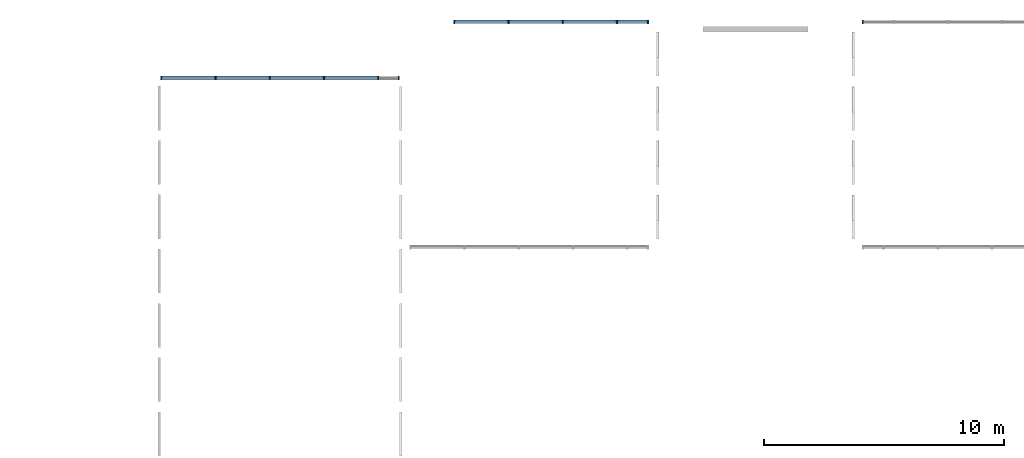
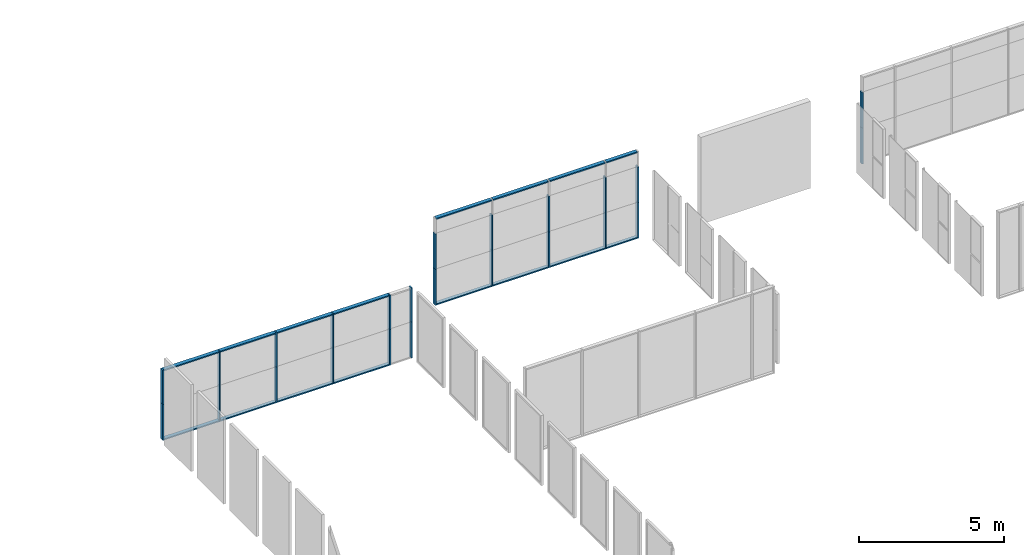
# One storey, part 3 of 15: 40 members, 3 elements without a shape of their own.
"""IFC2X3 building model written with IfcOpenShell, lengths in millimetres."""

from ifc_helpers import new_model, entity, si_unit, converted_unit, derived_unit, direction, frame, origin, origin_2d_with_axis, place, context, subcontext, project, spatial, rectangle, extrude, source, transform, mapped, material, type_object, type_shapes, element, aggregate, save


model = new_model("IFC2X3")

# Units and contexts
model_context = context("Model", 3, precision=0.01, world=origin(), true_north=direction((6.12303176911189e-17, 1.0)))
body_context = subcontext(model_context, "Body", "Model", "MODEL_VIEW")
ifc_project = project(units=[si_unit("LENGTHUNIT", "METRE", prefix="MILLI"), si_unit("AREAUNIT", "SQUARE_METRE"), si_unit("VOLUMEUNIT", "CUBIC_METRE"), converted_unit("PLANEANGLEUNIT", "DEGREE", entity("IfcRatioMeasure", 0.0174532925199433), si_unit("PLANEANGLEUNIT", "RADIAN"), dimensions=[0, 0, 0, 0, 0, 0, 0]), si_unit("MASSUNIT", "GRAM", prefix="KILO"), derived_unit("MASSDENSITYUNIT", [(si_unit("MASSUNIT", "GRAM", prefix="KILO"), 1), (si_unit("LENGTHUNIT", "METRE"), -3)]), derived_unit("MOMENTOFINERTIAUNIT", [(si_unit("LENGTHUNIT", "METRE"), 4)]), si_unit("TIMEUNIT", "SECOND"), si_unit("FREQUENCYUNIT", "HERTZ"), si_unit("THERMODYNAMICTEMPERATUREUNIT", "DEGREE_CELSIUS"), derived_unit("THERMALTRANSMITTANCEUNIT", [(si_unit("MASSUNIT", "GRAM", prefix="KILO"), 1), (si_unit("THERMODYNAMICTEMPERATUREUNIT", "KELVIN"), -1), (si_unit("TIMEUNIT", "SECOND"), -3)]), derived_unit("VOLUMETRICFLOWRATEUNIT", [(si_unit("LENGTHUNIT", "METRE"), 3), (si_unit("TIMEUNIT", "SECOND"), -1)]), si_unit("ELECTRICCURRENTUNIT", "AMPERE"), si_unit("ELECTRICVOLTAGEUNIT", "VOLT"), si_unit("POWERUNIT", "WATT"), si_unit("FORCEUNIT", "NEWTON", prefix="KILO"), si_unit("ILLUMINANCEUNIT", "LUX"), si_unit("LUMINOUSFLUXUNIT", "LUMEN"), si_unit("LUMINOUSINTENSITYUNIT", "CANDELA"), derived_unit("USERDEFINED", [(si_unit("MASSUNIT", "GRAM", prefix="KILO"), -1), (si_unit("LENGTHUNIT", "METRE"), -2), (si_unit("TIMEUNIT", "SECOND"), 3), (si_unit("LUMINOUSFLUXUNIT", "LUMEN"), 1)]), derived_unit("LINEARVELOCITYUNIT", [(si_unit("LENGTHUNIT", "METRE"), 1), (si_unit("TIMEUNIT", "SECOND"), -1)]), si_unit("PRESSUREUNIT", "PASCAL"), derived_unit("USERDEFINED", [(si_unit("LENGTHUNIT", "METRE"), -2), (si_unit("MASSUNIT", "GRAM", prefix="KILO"), 1), (si_unit("TIMEUNIT", "SECOND"), -2)]), derived_unit("LINEARFORCEUNIT", [(si_unit("MASSUNIT", "GRAM", prefix="KILO"), 1), (si_unit("LENGTHUNIT", "METRE"), 1), (si_unit("TIMEUNIT", "SECOND"), -2), (si_unit("LENGTHUNIT", "METRE"), -1)]), derived_unit("PLANARFORCEUNIT", [(si_unit("MASSUNIT", "GRAM", prefix="KILO"), 1), (si_unit("LENGTHUNIT", "METRE"), 1), (si_unit("TIMEUNIT", "SECOND"), -2), (si_unit("LENGTHUNIT", "METRE"), -2)])], contexts=[model_context])

# Site, building, storey
site_placement = place(None, frame((10627.5135316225, 21939.0796949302, 0.0)))
site = spatial("IfcSite", under=ifc_project, at=site_placement, Name="Default", CompositionType="ELEMENT")
building_placement = place(site_placement, origin())
building = spatial("IfcBuilding", under=site, at=building_placement, CompositionType="ELEMENT")
storey_placement = place(building_placement, origin())
storey = spatial("IfcBuildingStorey", under=building, at=storey_placement, Name="RDC", CompositionType="ELEMENT", Elevation=0.0)

# Curtain wall, member
curtain_wall_type = type_object("IfcCurtainWallType", Name="Curtain Wall:Curtain_Wall-Empty", PredefinedType="NOTDEFINED")
curtain_wall_1_placement = place(storey_placement, origin())
curtain_wall_1 = element("IfcCurtainWall", 1, at=curtain_wall_1_placement, inside=storey, type_object=curtain_wall_type, Name="Curtain Wall:Curtain_Wall-Empty", ObjectType="Curtain Wall:Curtain_Wall-Empty")
ifc_material = material(Name="Aluminium")
member_type_1 = type_object("IfcMemberType", Name="Rectangular Mullion:50x150mm", PredefinedType="MULLION", material=ifc_material)
shared_shape_1 = source(origin(), body_context, "Body", "SweptSolid", [
    extrude(rectangle(XDim=150.0, YDim=50.0, at=origin_2d_with_axis()), frame((-25.0, 0.0, -1515.0), z_axis=(0.0, 0.0, 1.0), x_axis=(0.0, -1.0, 0.0)), (0.0, 0.0, 1.0), 1515.0),
])
type_shapes(member_type_1, [shared_shape_1])
member_1_placement = place(storey_placement, frame((22127.4864683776, 16695.9203050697, 0.0), z_axis=(0.0, 0.0, -1.0), x_axis=(1.0, 0.0, 0.0)))
member_1 = element("IfcMember", 2, at=member_1_placement, type_object=member_type_1, material=ifc_material, Name="Rectangular Mullion:50x150mm", ObjectType="Rectangular Mullion:50x150mm", context=body_context, shape_type="MappedRepresentation", body=[
    mapped(shared_shape_1, transform((0.0, 0.0, 0.0), scale=1.0)),
])

curtain_wall_2_placement = place(storey_placement, origin())
curtain_wall_2 = element("IfcCurtainWall", 3, at=curtain_wall_2_placement, inside=storey, type_object=curtain_wall_type, Name="Curtain Wall:Curtain_Wall-Empty", ObjectType="Curtain Wall:Curtain_Wall-Empty")
member_2_placement = place(storey_placement, frame((11747.4864683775, 14360.9203050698, 0.0), z_axis=(0.0, 0.0, -1.0), x_axis=(1.0, 0.0, 0.0)))
member_2 = element("IfcMember", 4, at=member_2_placement, type_object=member_type_1, material=ifc_material, Name="Rectangular Mullion:50x150mm", ObjectType="Rectangular Mullion:50x150mm", context=body_context, shape_type="MappedRepresentation", body=[
    mapped(shared_shape_1, transform((0.0, 0.0, 0.0), scale=1.0)),
])

# Member
member_type_2 = type_object("IfcMemberType", Name="Rectangular Mullion:50x150mm", PredefinedType="MULLION", material=ifc_material)
shared_shape_2 = source(origin(), body_context, "Body", "SweptSolid", [
    extrude(rectangle(XDim=150.0, YDim=50.0, at=origin_2d_with_axis()), frame((-25.0, 0.0, -1500.0), z_axis=(0.0, 0.0, 1.0), x_axis=(0.0, -1.0, 0.0)), (0.0, 0.0, 1.0), 1500.0),
])
type_shapes(member_type_2, [shared_shape_2])
member_3_placement = place(storey_placement, frame((22127.4864683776, 16695.9203050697, 1515.0), z_axis=(0.0, 0.0, -1.0), x_axis=(1.0, 0.0, 0.0)))
member_3 = element("IfcMember", 5, at=member_3_placement, type_object=member_type_2, material=ifc_material, Name="Rectangular Mullion:50x150mm", ObjectType="Rectangular Mullion:50x150mm", context=body_context, shape_type="MappedRepresentation", body=[
    mapped(shared_shape_2, transform((0.0, 0.0, 0.0), scale=1.0)),
])

member_type_3 = type_object("IfcMemberType", Name="Rectangular Mullion:50x150mm", PredefinedType="MULLION", material=ifc_material)
shared_shape_3 = source(origin(), body_context, "Body", "SweptSolid", [
    extrude(rectangle(XDim=150.0, YDim=50.0, at=origin_2d_with_axis()), frame((-25.0, 0.0, -1515.0), z_axis=(0.0, 0.0, 1.0), x_axis=(0.0, -1.0, 0.0)), (0.0, 0.0, 1.0), 1515.0),
])
type_shapes(member_type_3, [shared_shape_3])
member_4_placement = place(storey_placement, frame((14007.4864683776, 16695.9203050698, 1515.0), z_axis=(0.0, 0.0, 1.0), x_axis=(-1.0, 0.0, 0.0)))
member_4 = element("IfcMember", 6, at=member_4_placement, type_object=member_type_3, material=ifc_material, Name="Rectangular Mullion:50x150mm", ObjectType="Rectangular Mullion:50x150mm", context=body_context, shape_type="MappedRepresentation", body=[
    mapped(shared_shape_3, transform((0.0, 0.0, 0.0), scale=1.0)),
])

member_5_placement = place(storey_placement, frame((1797.48646837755, 14360.9203050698, 1515.0), z_axis=(0.0, 0.0, 1.0), x_axis=(-1.0, 0.0, 0.0)))
member_5 = element("IfcMember", 7, at=member_5_placement, type_object=member_type_3, material=ifc_material, Name="Rectangular Mullion:50x150mm", ObjectType="Rectangular Mullion:50x150mm", context=body_context, shape_type="MappedRepresentation", body=[
    mapped(shared_shape_3, transform((0.0, 0.0, 0.0), scale=1.0)),
])

member_type_4 = type_object("IfcMemberType", Name="Rectangular Mullion:50x150mm", PredefinedType="MULLION", material=ifc_material)
shared_shape_4 = source(origin(), body_context, "Body", "SweptSolid", [
    extrude(rectangle(XDim=150.0, YDim=50.0, at=origin_2d_with_axis()), frame((-25.0, 0.0, -1500.0), z_axis=(0.0, 0.0, 1.0), x_axis=(0.0, -1.0, 0.0)), (0.0, 0.0, 1.0), 1500.0),
])
type_shapes(member_type_4, [shared_shape_4])
member_6_placement = place(storey_placement, frame((14007.4864683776, 16695.9203050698, 3015.0), z_axis=(0.0, 0.0, 1.0), x_axis=(-1.0, 0.0, 0.0)))
member_6 = element("IfcMember", 8, at=member_6_placement, type_object=member_type_4, material=ifc_material, Name="Rectangular Mullion:50x150mm", ObjectType="Rectangular Mullion:50x150mm", context=body_context, shape_type="MappedRepresentation", body=[
    mapped(shared_shape_4, transform((0.0, 0.0, 0.0), scale=1.0)),
])

member_type_5 = type_object("IfcMemberType", Name="Rectangular Mullion:50x150mm", PredefinedType="MULLION", material=ifc_material)
shared_shape_5 = source(origin(), body_context, "Body", "SweptSolid", [
    extrude(rectangle(XDim=150.0, YDim=50.0, at=origin_2d_with_axis()), frame((0.0, 0.0, -1515.0), z_axis=(0.0, 0.0, 1.0), x_axis=(0.0, -1.0, 0.0)), (0.0, 0.0, 1.0), 1515.0),
])
type_shapes(member_type_5, [shared_shape_5])
member_7_placement = place(storey_placement, frame((16292.4864686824, 16695.9203050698, 0.0), z_axis=(0.0, 0.0, -1.0), x_axis=(1.0, 0.0, 0.0)))
member_7 = element("IfcMember", 9, at=member_7_placement, type_object=member_type_5, material=ifc_material, Name="Rectangular Mullion:50x150mm", ObjectType="Rectangular Mullion:50x150mm", context=body_context, shape_type="MappedRepresentation", body=[
    mapped(shared_shape_5, transform((0.0, 0.0, 0.0), scale=1.0)),
])

member_8_placement = place(storey_placement, frame((18552.4864686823, 16695.9203050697, 0.0), z_axis=(0.0, 0.0, -1.0), x_axis=(1.0, 0.0, 0.0)))
member_8 = element("IfcMember", 10, at=member_8_placement, type_object=member_type_5, material=ifc_material, Name="Rectangular Mullion:50x150mm", ObjectType="Rectangular Mullion:50x150mm", context=body_context, shape_type="MappedRepresentation", body=[
    mapped(shared_shape_5, transform((0.0, 0.0, 0.0), scale=1.0)),
])

member_9_placement = place(storey_placement, frame((20812.4864686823, 16695.9203050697, 0.0), z_axis=(0.0, 0.0, -1.0), x_axis=(1.0, 0.0, 0.0)))
member_9 = element("IfcMember", 11, at=member_9_placement, type_object=member_type_5, material=ifc_material, Name="Rectangular Mullion:50x150mm", ObjectType="Rectangular Mullion:50x150mm", context=body_context, shape_type="MappedRepresentation", body=[
    mapped(shared_shape_5, transform((0.0, 0.0, 0.0), scale=1.0)),
])

member_10_placement = place(storey_placement, frame((4082.48646868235, 14360.9203050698, 0.0), z_axis=(0.0, 0.0, -1.0), x_axis=(1.0, 0.0, 0.0)))
member_10 = element("IfcMember", 12, at=member_10_placement, type_object=member_type_5, material=ifc_material, Name="Rectangular Mullion:50x150mm", ObjectType="Rectangular Mullion:50x150mm", context=body_context, shape_type="MappedRepresentation", body=[
    mapped(shared_shape_5, transform((0.0, 0.0, 0.0), scale=1.0)),
])

member_11_placement = place(storey_placement, frame((6342.48646868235, 14360.9203050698, 0.0), z_axis=(0.0, 0.0, -1.0), x_axis=(1.0, 0.0, 0.0)))
member_11 = element("IfcMember", 13, at=member_11_placement, type_object=member_type_5, material=ifc_material, Name="Rectangular Mullion:50x150mm", ObjectType="Rectangular Mullion:50x150mm", context=body_context, shape_type="MappedRepresentation", body=[
    mapped(shared_shape_5, transform((0.0, 0.0, 0.0), scale=1.0)),
])

member_12_placement = place(storey_placement, frame((8602.48646868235, 14360.9203050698, 0.0), z_axis=(0.0, 0.0, -1.0), x_axis=(1.0, 0.0, 0.0)))
member_12 = element("IfcMember", 14, at=member_12_placement, type_object=member_type_5, material=ifc_material, Name="Rectangular Mullion:50x150mm", ObjectType="Rectangular Mullion:50x150mm", context=body_context, shape_type="MappedRepresentation", body=[
    mapped(shared_shape_5, transform((0.0, 0.0, 0.0), scale=1.0)),
])

member_type_6 = type_object("IfcMemberType", Name="Rectangular Mullion:50x150mm", PredefinedType="MULLION", material=ifc_material)
shared_shape_6 = source(origin(), body_context, "Body", "SweptSolid", [
    extrude(rectangle(XDim=150.0, YDim=50.0, at=origin_2d_with_axis()), frame((0.0, 0.0, -1500.0), z_axis=(0.0, 0.0, 1.0), x_axis=(0.0, -1.0, 0.0)), (0.0, 0.0, 1.0), 1500.0),
])
type_shapes(member_type_6, [shared_shape_6])
member_13_placement = place(storey_placement, frame((16292.4864686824, 16695.9203050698, 1515.0), z_axis=(0.0, 0.0, -1.0), x_axis=(1.0, 0.0, 0.0)))
member_13 = element("IfcMember", 15, at=member_13_placement, type_object=member_type_6, material=ifc_material, Name="Rectangular Mullion:50x150mm", ObjectType="Rectangular Mullion:50x150mm", context=body_context, shape_type="MappedRepresentation", body=[
    mapped(shared_shape_6, transform((0.0, 0.0, 0.0), scale=1.0)),
])

member_14_placement = place(storey_placement, frame((18552.4864686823, 16695.9203050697, 1515.0), z_axis=(0.0, 0.0, -1.0), x_axis=(1.0, 0.0, 0.0)))
member_14 = element("IfcMember", 16, at=member_14_placement, type_object=member_type_6, material=ifc_material, Name="Rectangular Mullion:50x150mm", ObjectType="Rectangular Mullion:50x150mm", context=body_context, shape_type="MappedRepresentation", body=[
    mapped(shared_shape_6, transform((0.0, 0.0, 0.0), scale=1.0)),
])

member_15_placement = place(storey_placement, frame((20812.4864686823, 16695.9203050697, 1515.0), z_axis=(0.0, 0.0, -1.0), x_axis=(1.0, 0.0, 0.0)))
member_15 = element("IfcMember", 17, at=member_15_placement, type_object=member_type_6, material=ifc_material, Name="Rectangular Mullion:50x150mm", ObjectType="Rectangular Mullion:50x150mm", context=body_context, shape_type="MappedRepresentation", body=[
    mapped(shared_shape_6, transform((0.0, 0.0, 0.0), scale=1.0)),
])

member_type_7 = type_object("IfcMemberType", Name="Rectangular Mullion:50x150mm", PredefinedType="MULLION", material=ifc_material)
shared_shape_7 = source(origin(), body_context, "Body", "SweptSolid", [
    extrude(rectangle(XDim=150.0, YDim=50.0, at=origin_2d_with_axis()), frame((-25.0, 0.0, -1240.0), z_axis=(0.0, 0.0, 1.0), x_axis=(0.0, -1.0, 0.0)), (0.0, 0.0, 1.0), 1239.99999969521),
])
type_shapes(member_type_7, [shared_shape_7])
member_16_placement = place(storey_placement, frame((22077.4864683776, 16695.9203050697, 3660.0), z_axis=(1.0, 0.0, 0.0), x_axis=(0.0, 0.0, 1.0)))
member_16 = element("IfcMember", 18, at=member_16_placement, type_object=member_type_7, material=ifc_material, Name="Rectangular Mullion:50x150mm", ObjectType="Rectangular Mullion:50x150mm", context=body_context, shape_type="MappedRepresentation", body=[
    mapped(shared_shape_7, transform((0.0, 0.0, 0.0), scale=1.0)),
])

member_type_8 = type_object("IfcMemberType", Name="Rectangular Mullion:50x150mm", PredefinedType="MULLION", material=ifc_material)
shared_shape_8 = source(origin(), body_context, "Body", "SweptSolid", [
    extrude(rectangle(XDim=150.0, YDim=50.0, at=origin_2d_with_axis()), frame((-25.0, 0.0, -2210.0), z_axis=(0.0, 0.0, 1.0), x_axis=(0.0, -1.0, 0.0)), (0.0, 0.0, 1.0), 2210.0000003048),
])
type_shapes(member_type_8, [shared_shape_8])
member_17_placement = place(storey_placement, frame((16267.4864686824, 16695.9203050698, 3660.0), z_axis=(1.0, 0.0, 0.0), x_axis=(0.0, 0.0, 1.0)))
member_17 = element("IfcMember", 19, at=member_17_placement, type_object=member_type_8, material=ifc_material, Name="Rectangular Mullion:50x150mm", ObjectType="Rectangular Mullion:50x150mm", context=body_context, shape_type="MappedRepresentation", body=[
    mapped(shared_shape_8, transform((0.0, 0.0, 0.0), scale=1.0)),
])

member_18_placement = place(storey_placement, frame((18527.4864686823, 16695.9203050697, 3660.0), z_axis=(1.0, 0.0, 0.0), x_axis=(0.0, 0.0, 1.0)))
member_18 = element("IfcMember", 20, at=member_18_placement, type_object=member_type_8, material=ifc_material, Name="Rectangular Mullion:50x150mm", ObjectType="Rectangular Mullion:50x150mm", context=body_context, shape_type="MappedRepresentation", body=[
    mapped(shared_shape_8, transform((0.0, 0.0, 0.0), scale=1.0)),
])

member_19_placement = place(storey_placement, frame((20787.4864686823, 16695.9203050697, 3660.0), z_axis=(1.0, 0.0, 0.0), x_axis=(0.0, 0.0, 1.0)))
member_19 = element("IfcMember", 21, at=member_19_placement, type_object=member_type_8, material=ifc_material, Name="Rectangular Mullion:50x150mm", ObjectType="Rectangular Mullion:50x150mm", context=body_context, shape_type="MappedRepresentation", body=[
    mapped(shared_shape_8, transform((0.0, 0.0, 0.0), scale=1.0)),
])

member_20_placement = place(storey_placement, frame((4057.48646868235, 14360.9203050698, 2960.0), z_axis=(1.0, 0.0, 0.0), x_axis=(0.0, 0.0, 1.0)))
member_20 = element("IfcMember", 22, at=member_20_placement, type_object=member_type_8, material=ifc_material, Name="Rectangular Mullion:50x150mm", ObjectType="Rectangular Mullion:50x150mm", context=body_context, shape_type="MappedRepresentation", body=[
    mapped(shared_shape_8, transform((0.0, 0.0, 0.0), scale=1.0)),
])

member_21_placement = place(storey_placement, frame((6317.48646868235, 14360.9203050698, 2960.0), z_axis=(1.0, 0.0, 0.0), x_axis=(0.0, 0.0, 1.0)))
member_21 = element("IfcMember", 23, at=member_21_placement, type_object=member_type_8, material=ifc_material, Name="Rectangular Mullion:50x150mm", ObjectType="Rectangular Mullion:50x150mm", context=body_context, shape_type="MappedRepresentation", body=[
    mapped(shared_shape_8, transform((0.0, 0.0, 0.0), scale=1.0)),
])

member_22_placement = place(storey_placement, frame((8577.48646868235, 14360.9203050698, 2960.0), z_axis=(1.0, 0.0, 0.0), x_axis=(0.0, 0.0, 1.0)))
member_22 = element("IfcMember", 24, at=member_22_placement, type_object=member_type_8, material=ifc_material, Name="Rectangular Mullion:50x150mm", ObjectType="Rectangular Mullion:50x150mm", context=body_context, shape_type="MappedRepresentation", body=[
    mapped(shared_shape_8, transform((0.0, 0.0, 0.0), scale=1.0)),
])

member_type_9 = type_object("IfcMemberType", Name="Rectangular Mullion:50x150mm", PredefinedType="MULLION", material=ifc_material)
shared_shape_9 = source(origin(), body_context, "Body", "SweptSolid", [
    extrude(rectangle(XDim=150.0, YDim=50.0, at=origin_2d_with_axis()), frame((-25.0, 0.0, -2210.0), z_axis=(0.0, 0.0, 1.0), x_axis=(0.0, -1.0, 0.0)), (0.0, 0.0, 1.0), 2210.0000003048),
])
type_shapes(member_type_9, [shared_shape_9])
member_23_placement = place(storey_placement, frame((14057.4864683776, 16695.9203050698, 0.0), z_axis=(-1.0, 0.0, 0.0), x_axis=(0.0, 0.0, -1.0)))
member_23 = element("IfcMember", 25, at=member_23_placement, type_object=member_type_9, material=ifc_material, Name="Rectangular Mullion:50x150mm", ObjectType="Rectangular Mullion:50x150mm", context=body_context, shape_type="MappedRepresentation", body=[
    mapped(shared_shape_9, transform((0.0, 0.0, 0.0), scale=1.0)),
])

member_24_placement = place(storey_placement, frame((16317.4864686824, 16695.9203050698, 0.0), z_axis=(-1.0, 0.0, 0.0), x_axis=(0.0, 0.0, -1.0)))
member_24 = element("IfcMember", 26, at=member_24_placement, type_object=member_type_9, material=ifc_material, Name="Rectangular Mullion:50x150mm", ObjectType="Rectangular Mullion:50x150mm", context=body_context, shape_type="MappedRepresentation", body=[
    mapped(shared_shape_9, transform((0.0, 0.0, 0.0), scale=1.0)),
])

member_25_placement = place(storey_placement, frame((18577.4864686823, 16695.9203050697, 0.0), z_axis=(-1.0, 0.0, 0.0), x_axis=(0.0, 0.0, -1.0)))
member_25 = element("IfcMember", 27, at=member_25_placement, type_object=member_type_9, material=ifc_material, Name="Rectangular Mullion:50x150mm", ObjectType="Rectangular Mullion:50x150mm", context=body_context, shape_type="MappedRepresentation", body=[
    mapped(shared_shape_9, transform((0.0, 0.0, 0.0), scale=1.0)),
])

member_26_placement = place(storey_placement, frame((1847.48646837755, 14360.9203050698, 0.0), z_axis=(-1.0, 0.0, 0.0), x_axis=(0.0, 0.0, -1.0)))
member_26 = element("IfcMember", 28, at=member_26_placement, type_object=member_type_9, material=ifc_material, Name="Rectangular Mullion:50x150mm", ObjectType="Rectangular Mullion:50x150mm", context=body_context, shape_type="MappedRepresentation", body=[
    mapped(shared_shape_9, transform((0.0, 0.0, 0.0), scale=1.0)),
])

member_27_placement = place(storey_placement, frame((4107.48646868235, 14360.9203050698, 0.0), z_axis=(-1.0, 0.0, 0.0), x_axis=(0.0, 0.0, -1.0)))
member_27 = element("IfcMember", 29, at=member_27_placement, type_object=member_type_9, material=ifc_material, Name="Rectangular Mullion:50x150mm", ObjectType="Rectangular Mullion:50x150mm", context=body_context, shape_type="MappedRepresentation", body=[
    mapped(shared_shape_9, transform((0.0, 0.0, 0.0), scale=1.0)),
])

member_28_placement = place(storey_placement, frame((6367.48646868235, 14360.9203050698, 0.0), z_axis=(-1.0, 0.0, 0.0), x_axis=(0.0, 0.0, -1.0)))
member_28 = element("IfcMember", 30, at=member_28_placement, type_object=member_type_9, material=ifc_material, Name="Rectangular Mullion:50x150mm", ObjectType="Rectangular Mullion:50x150mm", context=body_context, shape_type="MappedRepresentation", body=[
    mapped(shared_shape_9, transform((0.0, 0.0, 0.0), scale=1.0)),
])

member_29_placement = place(storey_placement, frame((8627.48646868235, 14360.9203050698, 0.0), z_axis=(-1.0, 0.0, 0.0), x_axis=(0.0, 0.0, -1.0)))
member_29 = element("IfcMember", 31, at=member_29_placement, type_object=member_type_9, material=ifc_material, Name="Rectangular Mullion:50x150mm", ObjectType="Rectangular Mullion:50x150mm", context=body_context, shape_type="MappedRepresentation", body=[
    mapped(shared_shape_9, transform((0.0, 0.0, 0.0), scale=1.0)),
])

member_type_10 = type_object("IfcMemberType", Name="Rectangular Mullion:50x150mm", PredefinedType="MULLION", material=ifc_material)
shared_shape_10 = source(origin(), body_context, "Body", "SweptSolid", [
    extrude(rectangle(XDim=150.0, YDim=50.0, at=origin_2d_with_axis()), frame((-25.0, 0.0, -1240.0), z_axis=(0.0, 0.0, 1.0), x_axis=(0.0, -1.0, 0.0)), (0.0, 0.0, 1.0), 1239.99999969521),
])
type_shapes(member_type_10, [shared_shape_10])
member_30_placement = place(storey_placement, frame((20837.4864686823, 16695.9203050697, 0.0), z_axis=(-1.0, 0.0, 0.0), x_axis=(0.0, 0.0, -1.0)))
member_30 = element("IfcMember", 32, at=member_30_placement, type_object=member_type_10, material=ifc_material, Name="Rectangular Mullion:50x150mm", ObjectType="Rectangular Mullion:50x150mm", context=body_context, shape_type="MappedRepresentation", body=[
    mapped(shared_shape_10, transform((0.0, 0.0, 0.0), scale=1.0)),
])

aggregate(curtain_wall_1, [member_1, member_3, member_4, member_6, member_7, member_8, member_9, member_13, member_14, member_15, member_16, member_17, member_18, member_19, member_23, member_24, member_25, member_30])

# Curtain wall, members
curtain_wall_3_placement = place(storey_placement, origin())
curtain_wall_3 = element("IfcCurtainWall", 33, at=curtain_wall_3_placement, inside=storey, type_object=curtain_wall_type, Name="Curtain Wall:Curtain_Wall-Empty", ObjectType="Curtain Wall:Curtain_Wall-Empty")
member_type_11 = type_object("IfcMemberType", Name="Rectangular Mullion:50x150mm", PredefinedType="MULLION", material=ifc_material)
shared_shape_11 = source(origin(), body_context, "Body", "SweptSolid", [
    extrude(rectangle(XDim=150.0, YDim=50.0, at=origin_2d_with_axis()), frame((-25.0, 0.0, -1515.0), z_axis=(0.0, 0.0, 1.0), x_axis=(0.0, -1.0, 0.0)), (0.0, 0.0, 1.0), 1515.0),
])
type_shapes(member_type_11, [shared_shape_11])
member_31_placement = place(storey_placement, frame((31027.4864683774, 16695.9203050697, 0.0), z_axis=(0.0, 0.0, -1.0), x_axis=(-1.0, 0.0, 0.0)))
member_31 = element("IfcMember", 34, at=member_31_placement, type_object=member_type_11, material=ifc_material, Name="Rectangular Mullion:50x150mm", ObjectType="Rectangular Mullion:50x150mm", context=body_context, shape_type="MappedRepresentation", body=[
    mapped(shared_shape_11, transform((0.0, 0.0, 0.0), scale=1.0)),
])
member_type_12 = type_object("IfcMemberType", Name="Rectangular Mullion:50x150mm", PredefinedType="MULLION", material=ifc_material)
shared_shape_12 = source(origin(), body_context, "Body", "SweptSolid", [
    extrude(rectangle(XDim=150.0, YDim=50.0, at=origin_2d_with_axis()), frame((-25.0, 0.0, -1500.0), z_axis=(0.0, 0.0, 1.0), x_axis=(0.0, -1.0, 0.0)), (0.0, 0.0, 1.0), 1500.0),
])
type_shapes(member_type_12, [shared_shape_12])
member_32_placement = place(storey_placement, frame((31027.4864683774, 16695.9203050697, 1515.0), z_axis=(0.0, 0.0, -1.0), x_axis=(-1.0, 0.0, 0.0)))
member_32 = element("IfcMember", 35, at=member_32_placement, type_object=member_type_12, material=ifc_material, Name="Rectangular Mullion:50x150mm", ObjectType="Rectangular Mullion:50x150mm", context=body_context, shape_type="MappedRepresentation", body=[
    mapped(shared_shape_12, transform((0.0, 0.0, 0.0), scale=1.0)),
])
aggregate(curtain_wall_3, [member_31, member_32])

# Member
member_type_13 = type_object("IfcMemberType", Name="Rectangular Mullion:50x150mm", PredefinedType="MULLION", material=ifc_material)
shared_shape_13 = source(origin(), body_context, "Body", "SweptSolid", [
    extrude(rectangle(XDim=150.0, YDim=50.0, at=origin_2d_with_axis()), frame((-25.0, 0.0, -1445.0), z_axis=(0.0, 0.0, 1.0), x_axis=(0.0, -1.0, 0.0)), (0.0, 0.0, 1.0), 1445.0),
])
type_shapes(member_type_13, [shared_shape_13])
member_33_placement = place(storey_placement, frame((1797.48646837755, 14360.9203050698, 2960.0), z_axis=(0.0, 0.0, 1.0), x_axis=(-1.0, 0.0, 0.0)))
member_33 = element("IfcMember", 36, at=member_33_placement, type_object=member_type_13, material=ifc_material, Name="Rectangular Mullion:50x150mm", ObjectType="Rectangular Mullion:50x150mm", context=body_context, shape_type="MappedRepresentation", body=[
    mapped(shared_shape_13, transform((0.0, 0.0, 0.0), scale=1.0)),
])

member_type_14 = type_object("IfcMemberType", Name="Rectangular Mullion:50x150mm", PredefinedType="MULLION", material=ifc_material)
shared_shape_14 = source(origin(), body_context, "Body", "SweptSolid", [
    extrude(rectangle(XDim=150.0, YDim=50.0, at=origin_2d_with_axis()), frame((-25.0, 0.0, -1445.0), z_axis=(0.0, 0.0, 1.0), x_axis=(0.0, -1.0, 0.0)), (0.0, 0.0, 1.0), 1445.0),
])
type_shapes(member_type_14, [shared_shape_14])
member_34_placement = place(storey_placement, frame((11747.4864683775, 14360.9203050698, 1515.0), z_axis=(0.0, 0.0, -1.0), x_axis=(1.0, 0.0, 0.0)))
member_34 = element("IfcMember", 37, at=member_34_placement, type_object=member_type_14, material=ifc_material, Name="Rectangular Mullion:50x150mm", ObjectType="Rectangular Mullion:50x150mm", context=body_context, shape_type="MappedRepresentation", body=[
    mapped(shared_shape_14, transform((0.0, 0.0, 0.0), scale=1.0)),
])

member_type_15 = type_object("IfcMemberType", Name="Rectangular Mullion:50x150mm", PredefinedType="MULLION", material=ifc_material)
shared_shape_15 = source(origin(), body_context, "Body", "SweptSolid", [
    extrude(rectangle(XDim=150.0, YDim=50.0, at=origin_2d_with_axis()), frame((0.0, 0.0, -1445.0), z_axis=(0.0, 0.0, 1.0), x_axis=(0.0, -1.0, 0.0)), (0.0, 0.0, 1.0), 1445.0),
])
type_shapes(member_type_15, [shared_shape_15])
member_35_placement = place(storey_placement, frame((4082.48646868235, 14360.9203050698, 1515.0), z_axis=(0.0, 0.0, -1.0), x_axis=(1.0, 0.0, 0.0)))
member_35 = element("IfcMember", 38, at=member_35_placement, type_object=member_type_15, material=ifc_material, Name="Rectangular Mullion:50x150mm", ObjectType="Rectangular Mullion:50x150mm", context=body_context, shape_type="MappedRepresentation", body=[
    mapped(shared_shape_15, transform((0.0, 0.0, 0.0), scale=1.0)),
])

member_36_placement = place(storey_placement, frame((6342.48646868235, 14360.9203050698, 1515.0), z_axis=(0.0, 0.0, -1.0), x_axis=(1.0, 0.0, 0.0)))
member_36 = element("IfcMember", 39, at=member_36_placement, type_object=member_type_15, material=ifc_material, Name="Rectangular Mullion:50x150mm", ObjectType="Rectangular Mullion:50x150mm", context=body_context, shape_type="MappedRepresentation", body=[
    mapped(shared_shape_15, transform((0.0, 0.0, 0.0), scale=1.0)),
])

member_37_placement = place(storey_placement, frame((8602.48646868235, 14360.9203050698, 1515.0), z_axis=(0.0, 0.0, -1.0), x_axis=(1.0, 0.0, 0.0)))
member_37 = element("IfcMember", 40, at=member_37_placement, type_object=member_type_15, material=ifc_material, Name="Rectangular Mullion:50x150mm", ObjectType="Rectangular Mullion:50x150mm", context=body_context, shape_type="MappedRepresentation", body=[
    mapped(shared_shape_15, transform((0.0, 0.0, 0.0), scale=1.0)),
])

member_type_16 = type_object("IfcMemberType", Name="Rectangular Mullion:50x150mm", PredefinedType="MULLION", material=ifc_material)
shared_shape_16 = source(origin(), body_context, "Body", "SweptSolid", [
    extrude(rectangle(XDim=150.0, YDim=50.0, at=origin_2d_with_axis()), frame((-25.0, 0.0, -2210.0), z_axis=(0.0, 0.0, 1.0), x_axis=(0.0, -1.0, 0.0)), (0.0, 0.0, 1.0), 2210.0),
])
type_shapes(member_type_16, [shared_shape_16])
member_38_placement = place(storey_placement, frame((10837.4864686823, 14360.9203050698, 2960.0), z_axis=(1.0, 0.0, 0.0), x_axis=(0.0, 0.0, 1.0)))
member_38 = element("IfcMember", 41, at=member_38_placement, type_object=member_type_16, material=ifc_material, Name="Rectangular Mullion:50x150mm", ObjectType="Rectangular Mullion:50x150mm", context=body_context, shape_type="MappedRepresentation", body=[
    mapped(shared_shape_16, transform((0.0, 0.0, 0.0), scale=1.0)),
])

member_type_17 = type_object("IfcMemberType", Name="Rectangular Mullion:50x150mm", PredefinedType="MULLION", material=ifc_material)
shared_shape_17 = source(origin(), body_context, "Body", "SweptSolid", [
    extrude(rectangle(XDim=150.0, YDim=50.0, at=origin_2d_with_axis()), frame((0.0, 0.0, -1515.0), z_axis=(0.0, 0.0, 1.0), x_axis=(0.0, -1.0, 0.0)), (0.0, 0.0, 1.0), 1515.0),
])
type_shapes(member_type_17, [shared_shape_17])
member_39_placement = place(storey_placement, frame((10862.4864686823, 14360.9203050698, 0.0), z_axis=(0.0, 0.0, -1.0), x_axis=(1.0, 0.0, 0.0)))
member_39 = element("IfcMember", 42, at=member_39_placement, type_object=member_type_17, material=ifc_material, Name="Rectangular Mullion:50x150mm", ObjectType="Rectangular Mullion:50x150mm", context=body_context, shape_type="MappedRepresentation", body=[
    mapped(shared_shape_17, transform((0.0, 0.0, 0.0), scale=1.0)),
])

member_type_18 = type_object("IfcMemberType", Name="Rectangular Mullion:50x150mm", PredefinedType="MULLION", material=ifc_material)
shared_shape_18 = source(origin(), body_context, "Body", "SweptSolid", [
    extrude(rectangle(XDim=150.0, YDim=50.0, at=origin_2d_with_axis()), frame((0.0, 0.0, -1445.0), z_axis=(0.0, 0.0, 1.0), x_axis=(0.0, -1.0, 0.0)), (0.0, 0.0, 1.0), 1445.0),
])
type_shapes(member_type_18, [shared_shape_18])
member_40_placement = place(storey_placement, frame((10862.4864686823, 14360.9203050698, 1515.0), z_axis=(0.0, 0.0, -1.0), x_axis=(1.0, 0.0, 0.0)))
member_40 = element("IfcMember", 43, at=member_40_placement, type_object=member_type_18, material=ifc_material, Name="Rectangular Mullion:50x150mm", ObjectType="Rectangular Mullion:50x150mm", context=body_context, shape_type="MappedRepresentation", body=[
    mapped(shared_shape_18, transform((0.0, 0.0, 0.0), scale=1.0)),
])

aggregate(curtain_wall_2, [member_2, member_33, member_34, member_5, member_10, member_11, member_12, member_35, member_36, member_37, member_20, member_21, member_22, member_26, member_27, member_28, member_29, member_38, member_39, member_40])

save(model, "model.ifc")
